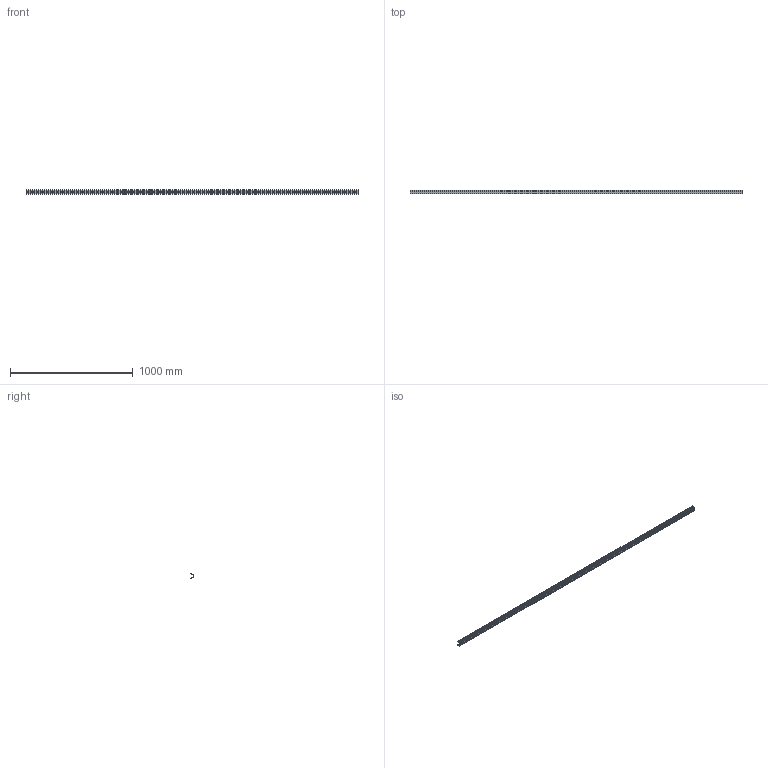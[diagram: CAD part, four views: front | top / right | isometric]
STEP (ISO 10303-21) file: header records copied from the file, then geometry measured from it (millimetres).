
FILE_DESCRIPTION( ( 'STEP AP203' ), '1' );
FILE_NAME( 'C:/Temp/Ganter_Step_05_03_2020/data/3_8/gn_646_3/Carrier profile GN 646.3-2700-B (15).stp', '2020-03-12T15:24:32', ( 'License CC BY-ND 4.0' ), ( 'CADENAS' ), ' ', 'PARTsolutions', ' ' );
FILE_SCHEMA( ( 'CONFIG_CONTROL_DESIGN' ) );
Length unit declared in the file: millimetre
Products named in the file (1): _Carrier profile GN 646.3-2700-B (15)
Bounding box: 2700 x 26.5 x 36 mm (x, y, z)
Volume: 445209.2 mm3; surface area: 562437.3 mm2
Topology: 1 solids, 1 shells, 512 faces, 1530 edges, 1020 vertices
Faces by surface type: plane 270, cylinder 242
Entity records: 17782 total; most frequent: CARTESIAN_POINT 3063, ORIENTED_EDGE 3060, DIRECTION 3040, EDGE_CURVE 1530, LINE 1046, VECTOR 1046, VERTEX_POINT 1020, AXIS2_PLACEMENT_3D 997
